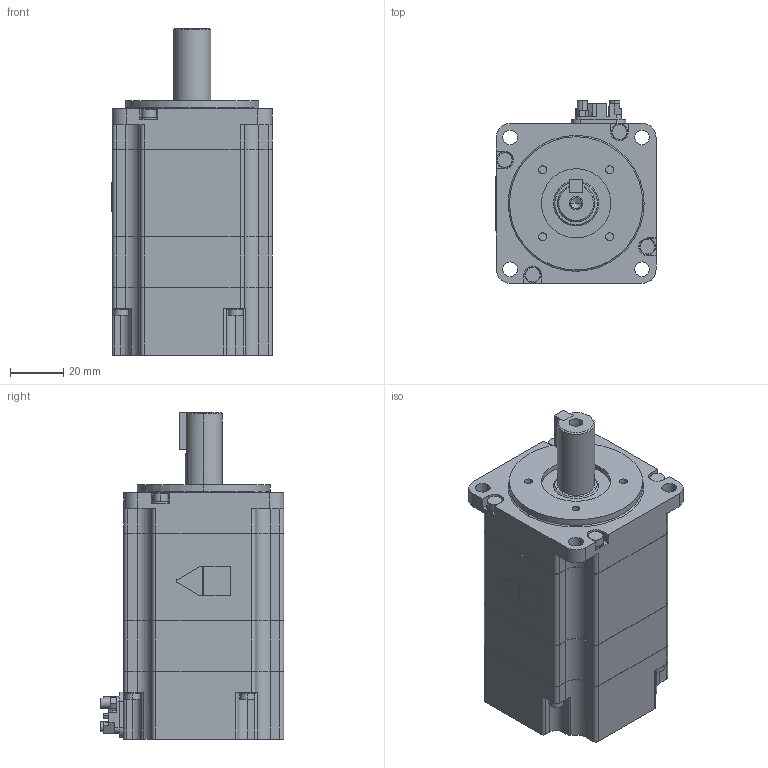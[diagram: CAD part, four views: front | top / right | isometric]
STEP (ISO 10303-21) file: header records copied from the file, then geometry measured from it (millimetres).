
FILE_DESCRIPTION( (''), '2;1');
FILE_NAME ('sgmxj_04awa61a_.stp','2023-08-25T12:06:44',(''),(''),'spGate 15.6.6','','');
FILE_SCHEMA (('AUTOMOTIVE_DESIGN'));
Length unit declared in the file: millimetre
Products named in the file (3): Assembly; sgmxj_04awa61a_-prt0; sgmxj_04awa61a_-prt1
Assembly tree (2 placements, depth 2):
  Assembly
    sgmxj_04awa61a_-prt0
    sgmxj_04awa61a_-prt1
Bounding box: 60.1 x 68.8 x 122.6 mm (x, y, z)
Volume: 302755.1 mm3; surface area: 33729.7 mm2
Topology: 2 solids, 2 shells, 446 faces, 1178 edges, 783 vertices
Faces by surface type: plane 257, cylinder 182, bspline 7
Entity records: 23336 total; most frequent: CARTESIAN_POINT 2625, DIRECTION 2360, ORIENTED_EDGE 2352, COLOUR_RGB 1624, PRESENTATION_STYLE_ASSIGNMENT 1624, STYLED_ITEM 1624, EDGE_CURVE 1176, DRAUGHTING_PRE_DEFINED_CURVE_FONT 1176
